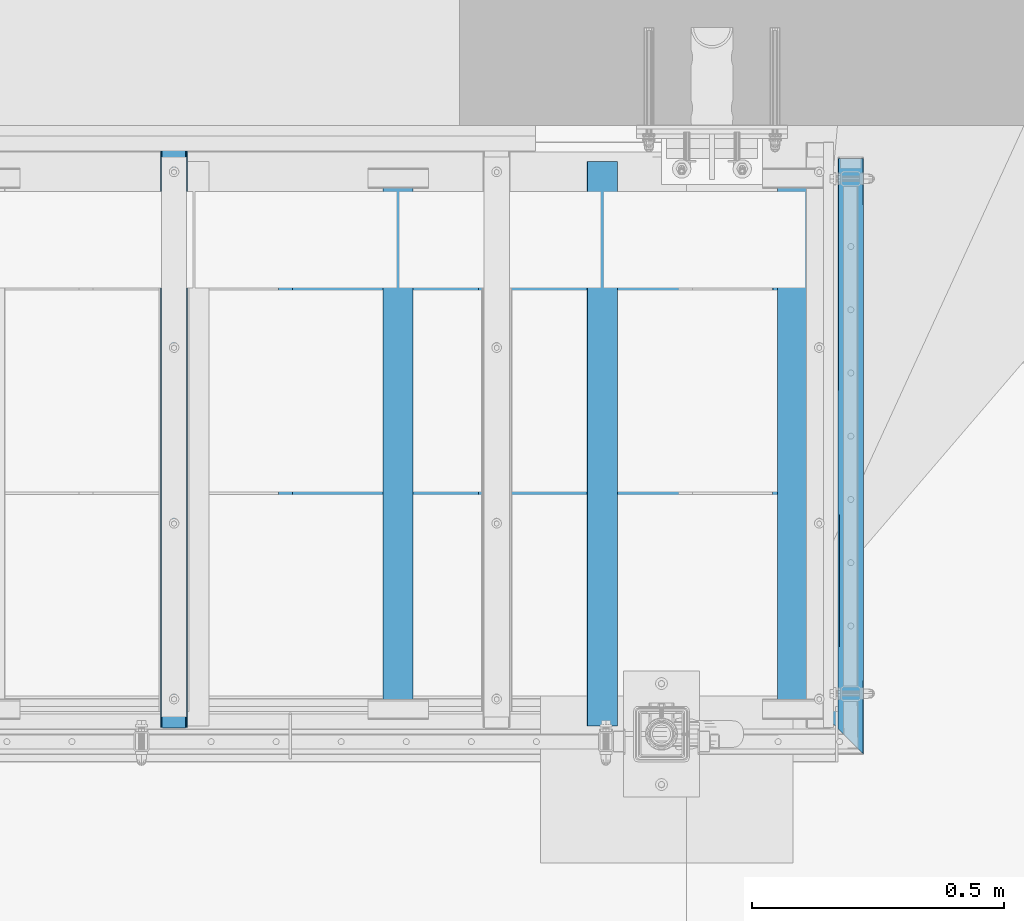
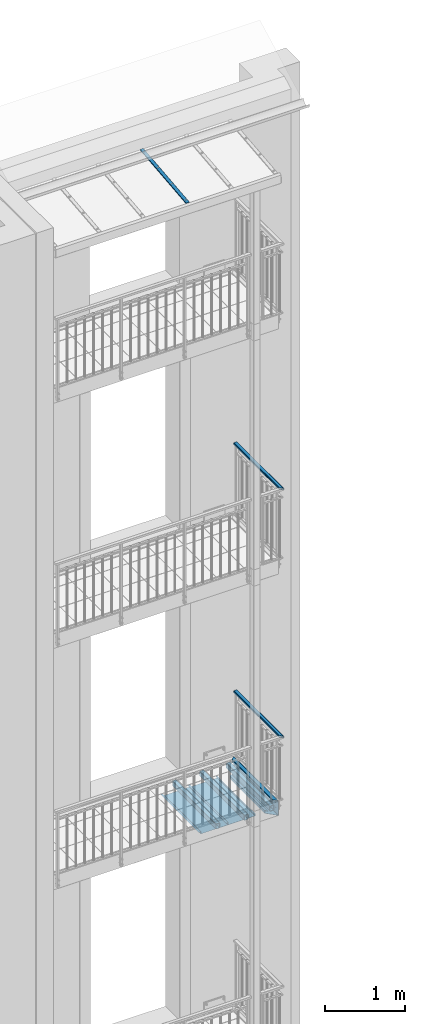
# One storey, part 43 of 162: 8 beams, 1 member, 17 openings.
"""IFC2X3 building model written with IfcOpenShell, lengths in millimetres."""

from ifc_helpers import new_model, entity, si_unit, converted_unit, point, frame, frame_2d, origin, origin_with_axes, origin_2d, origin_2d_with_axis, place, context, project, spatial, polyline, circle_curve, line_curve, trimmed, segment, composite_curve, hollow_rectangle, circle, outline, extrude, clip, halfspace, material, element, save


model = new_model("IFC2X3")

# Units and contexts
model_context = context("Model", 3, precision=1e-09, world=origin_with_axes())
ifc_project = project(units=[si_unit("LENGTHUNIT", "METRE", prefix="MILLI"), si_unit("AREAUNIT", "SQUARE_METRE"), si_unit("VOLUMEUNIT", "CUBIC_METRE"), converted_unit("PLANEANGLEUNIT", "DEGREE", entity("IfcPlaneAngleMeasure", 0.01745329), si_unit("PLANEANGLEUNIT", "RADIAN"), dimensions=[0, 0, 0, 0, 0, 0, 0])], contexts=[model_context])

# Site, building, storey
site_placement = place(None, origin_with_axes())
site = spatial("IfcSite", under=ifc_project, at=site_placement, Name="Hermannstra?e 1a, 60318 Frankfurt", CompositionType="ELEMENT")
building_placement = place(site_placement, origin_with_axes())
building = spatial("IfcBuilding", under=site, at=building_placement, Name="Struktur 1", CompositionType="ELEMENT")
storey_placement = place(building_placement, origin_with_axes())
storey = spatial("IfcBuildingStorey", under=building, at=storey_placement, Name="Default Storey", CompositionType="ELEMENT", Elevation=0.0)

# Beams
ifc_material_1 = material(Name="S235JR")
beam_1_placement = place(None, frame((5356.05936482, 1546.109373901, 7685.0), z_axis=(0.0, 1.0, 0.0), x_axis=(-1.0, 0.0, 0.0)))
element("IfcBeam", 1, at=beam_1_placement, inside=storey, material=ifc_material_1, Name="-", ObjectType="-", context=model_context, shape_type="SweptSolid", body=[
    extrude(hollow_rectangle(XDim=60.0, YDim=80.0, WallThickness=4.0, InnerFilletRadius=4.0, OuterFilletRadius=8.0, at=origin_2d()), origin(), (0.0, 0.0, 1.0), 1119.0),
])
for number, where, z_axis, x_axis in (
    (2, (4951.55936482, 1559.609373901, 7685.0), (0.0, 1.0, 0.0), (-1.0, 0.0, 0.0)),
    (3, (5733.30936482, 1559.609373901, 7685.0), (0.0, 1.0, 0.0), (-1.0, 0.0, 0.0)),
):
    element("IfcBeam", number, at=place(None, frame(where, z_axis=z_axis, x_axis=x_axis)), inside=storey, material=ifc_material_1, Name="-", ObjectType="-", context=model_context, shape_type="SweptSolid", body=[
        extrude(hollow_rectangle(XDim=60.0, YDim=80.0, WallThickness=4.0, InnerFilletRadius=4.0, OuterFilletRadius=8.0, at=origin_2d()), origin(), (0.0, 0.0, 1.0), 1092.0),
    ])
ifc_material_2 = material(Name="Alu")
for number, where, z_axis, x_axis in (
    (4, (5136.80936482, 1625.609373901, 7595.0), (0.0, -1.0, 0.0), (1.0, 0.0, 0.0)),
    (5, (5532.80936482, 1625.609373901, 7595.0), (0.0, -1.0, 0.0), (1.0, 0.0, 0.0)),
):
    element("IfcBeam", number, at=place(None, frame(where, z_axis=z_axis, x_axis=x_axis)), inside=storey, material=ifc_material_2, Name="-", ObjectType="-", context=model_context, shape_type="SweptSolid", body=[
        extrude(outline(polyline([(-421.449159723, 31.122617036), (-396.0, 34.699263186), (-396.0, 0.0), (0.0, 0.0), (0.0, 34.0), (-17.824825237, 31.494884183), (-17.546479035, 29.514348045), (-2.0, 31.699263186), (-2.0, 2.0), (-394.0, 2.0), (-394.0, 37.0), (-421.727505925, 33.103153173), (-421.449159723, 31.122617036)])), origin(), (0.0, 0.0, -1.0), 960.0),
    ])

# Beam, openings
ifc_material_3 = material(Name="S355JR")
beam_2_placement = place(None, frame((5758.30936482, 1163.302136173, 7665.0), z_axis=(0.0, 1.0, 0.0), x_axis=(-1.0, 0.0, 0.0)))
beam_2 = element("IfcBeam", 6, at=beam_2_placement, inside=storey, material=ifc_material_3, Name="-", ObjectType="-", context=model_context, shape_type="Clipping", body=[
    clip(clip(extrude(outline(composite_curve([segment(trimmed(circle_curve(frame_2d((57.999999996, -107.999999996), x_axis=(1.0, 0.0)), 7.000000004), [point((58.0, -115.0))], [point((65.0, -108.0))], True, "CARTESIAN"), True, "CONTINUOUS"), segment(trimmed(line_curve((65.0, -108.0), (0.0, 1.0), 31.0), [point((65.0, -108.0))], [point((65.0, -77.0))], True, "CARTESIAN"), True, "CONTINUOUS"), segment(trimmed(circle_curve(frame_2d((57.999999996, -77.000000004), x_axis=(1.0, 0.0)), 7.000000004), [point((65.0, -77.0))], [point((58.0, -70.0))], True, "CARTESIAN"), True, "CONTINUOUS"), segment(trimmed(line_curve((58.0, -70.0), (-1.0, 0.0), 23.0), [point((58.0, -70.0))], [point((35.0, -70.0))], True, "CARTESIAN"), True, "CONTINUOUS"), segment(trimmed(line_curve((35.0, -70.0), (0.0, -1.0), 4.0), [point((35.0, -70.0))], [point((35.0, -74.0))], True, "CARTESIAN"), True, "CONTINUOUS"), segment(trimmed(line_curve((35.0, -74.0), (1.0, 0.0), 23.0), [point((35.0, -74.0))], [point((58.0, -74.0))], True, "CARTESIAN"), True, "CONTINUOUS"), segment(trimmed(circle_curve(frame_2d((57.999999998, -77.000000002), x_axis=(-1.0, 0.0)), 3.000000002), [point((58.0, -74.0))], [point((61.0, -77.0))], False, "CARTESIAN"), True, "CONTINUOUS"), segment(trimmed(line_curve((61.0, -77.0), (0.0, -1.0), 31.0), [point((61.0, -77.0))], [point((61.0, -108.0))], True, "CARTESIAN"), True, "CONTINUOUS"), segment(trimmed(circle_curve(frame_2d((57.999999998, -107.999999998), x_axis=(-1.0, 0.0)), 3.000000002), [point((61.0, -108.0))], [point((58.0, -111.0))], False, "CARTESIAN"), True, "CONTINUOUS"), segment(trimmed(line_curve((58.0, -111.0), (-1.0, 0.0), 116.0), [point((58.0, -111.0))], [point((-58.0, -111.0))], True, "CARTESIAN"), True, "CONTINUOUS"), segment(trimmed(circle_curve(frame_2d((-57.999999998, -107.999999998), x_axis=(-1.0, 0.0)), 3.000000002), [point((-58.0, -111.0))], [point((-61.0, -108.0))], False, "CARTESIAN"), True, "CONTINUOUS"), segment(trimmed(line_curve((-61.0, -108.0), (0.0, 1.0), 216.0), [point((-61.0, -108.0))], [point((-61.0, 108.0))], True, "CARTESIAN"), True, "CONTINUOUS"), segment(trimmed(circle_curve(frame_2d((-57.999999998, 107.999999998), x_axis=(-1.0, 0.0)), 3.000000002), [point((-61.0, 108.0))], [point((-58.0, 111.0))], False, "CARTESIAN"), True, "CONTINUOUS"), segment(trimmed(line_curve((-58.0, 111.0), (1.0, 0.0), 46.0), [point((-58.0, 111.0))], [point((-12.0, 111.0))], True, "CARTESIAN"), True, "CONTINUOUS"), segment(trimmed(circle_curve(frame_2d((-12.000000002, 107.999999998), x_axis=(-1.0, 0.0)), 3.000000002), [point((-12.0, 111.0))], [point((-9.0, 108.0))], False, "CARTESIAN"), True, "CONTINUOUS"), segment(trimmed(line_curve((-9.0, 108.0), (0.0, -1.0), 33.0), [point((-9.0, 108.0))], [point((-9.0, 75.0))], True, "CARTESIAN"), True, "CONTINUOUS"), segment(trimmed(line_curve((-9.0, 75.0), (1.0, 0.0), 4.0), [point((-9.0, 75.0))], [point((-5.0, 75.0))], True, "CARTESIAN"), True, "CONTINUOUS"), segment(trimmed(line_curve((-5.0, 75.0), (0.0, 1.0), 33.0), [point((-5.0, 75.0))], [point((-5.0, 108.0))], True, "CARTESIAN"), True, "CONTINUOUS"), segment(trimmed(circle_curve(frame_2d((-12.000000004, 107.999999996), x_axis=(1.0, 0.0)), 7.000000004), [point((-5.0, 108.0))], [point((-12.0, 115.0))], True, "CARTESIAN"), True, "CONTINUOUS"), segment(trimmed(line_curve((-12.0, 115.0), (-1.0, 0.0), 46.0), [point((-12.0, 115.0))], [point((-58.0, 115.0))], True, "CARTESIAN"), True, "CONTINUOUS"), segment(trimmed(circle_curve(frame_2d((-57.999999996, 107.999999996), x_axis=(1.0, 0.0)), 7.000000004), [point((-58.0, 115.0))], [point((-65.0, 108.0))], True, "CARTESIAN"), True, "CONTINUOUS"), segment(trimmed(line_curve((-65.0, 108.0), (0.0, -1.0), 216.0), [point((-65.0, 108.0))], [point((-65.0, -108.0))], True, "CARTESIAN"), True, "CONTINUOUS"), segment(trimmed(circle_curve(frame_2d((-57.999999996, -107.999999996), x_axis=(1.0, 0.0)), 7.000000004), [point((-65.0, -108.0))], [point((-58.0, -115.0))], True, "CARTESIAN"), True, "CONTINUOUS"), segment(trimmed(line_curve((-58.0, -115.0), (1.0, 0.0), 116.0), [point((-58.0, -115.0))], [point((58.0, -115.0))], True, "CARTESIAN"), True, "CONTINUOUS")], self_intersect=False)), origin(), (0.0, 0.0, 1.0), 1884.614475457), halfspace(frame((4181.958662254, -7665.0, -2739.652838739), z_axis=(-0.707106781, 0.0, -0.707106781), x_axis=(-0.707106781, 0.0, 0.707106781)), True)), halfspace(frame((2076.349288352, -7665.0, 2518.657940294), z_axis=(-0.707106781, 0.0, 0.707106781), x_axis=(0.707106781, 0.0, 0.707106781)), True)),
])
opening_1_placement = place(beam_2_placement, frame((-56.065030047, 215.1, 367.985828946), z_axis=(0.0, 1.0, 0.0), x_axis=(-1.0, 0.0, 0.0)))
element("IfcOpeningElement", 7, at=opening_1_placement, cuts=beam_2, ObjectType="Opening", context=model_context, shape_type="SweptSolid", body=[
    extrude(outline(polyline([(0.0, 0.0), (32.796627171, 0.0), (32.796627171, 13.322408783), (0.0, 13.322408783), (0.0, 0.0)])), origin(), (0.0, 0.0, -1.0), 430.2),
])
opening_2_placement = place(beam_2_placement, frame((-72.463343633, 215.1, 1509.96744212), z_axis=(0.0, -1.0, 0.0), x_axis=(-1.0, 0.0, 0.0)))
element("IfcOpeningElement", 8, at=opening_2_placement, cuts=beam_2, ObjectType="Opening", context=model_context, shape_type="SweptSolid", body=[
    extrude(outline(polyline([(-16.398313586, -6.661204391), (16.398313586, -6.661204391), (16.398313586, 6.661204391), (-16.398313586, 6.661204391), (-16.398313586, -6.661204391)])), origin(), (0.0, 0.0, 1.0), 430.2),
])
opening_3_placement = place(beam_2_placement, frame((-60.5, 95.0, 407.307823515), z_axis=(1.0, 0.0, 0.0), x_axis=(0.0, 1.0, 0.0)))
element("IfcOpeningElement", 9, at=opening_3_placement, cuts=beam_2, ObjectType="Opening", context=model_context, shape_type="SweptSolid", body=[
    extrude(circle(Radius=10.001, at=frame_2d((0.0, -10.001), x_axis=(1.0, 0.0))), origin(), (0.0, 0.0, -1.0), 5.0),
])
opening_4_placement = place(beam_2_placement, frame((-65.5, 55.0, 440.306237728), z_axis=(-1.0, 0.0, 0.0), x_axis=(0.0, -1.0, 0.0)))
element("IfcOpeningElement", 10, at=opening_4_placement, cuts=beam_2, ObjectType="Opening", context=model_context, shape_type="SweptSolid", body=[
    extrude(circle(Radius=7.001, at=frame_2d((0.0, 7.001), x_axis=(1.0, 0.0))), origin(), (0.0, 0.0, -1.0), 5.0),
])
opening_5_placement = place(beam_2_placement, frame((-65.5, -25.0, 440.306237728), z_axis=(-1.0, 0.0, 0.0), x_axis=(0.0, -1.0, 0.0)))
element("IfcOpeningElement", 11, at=opening_5_placement, cuts=beam_2, ObjectType="Opening", context=model_context, shape_type="SweptSolid", body=[
    extrude(circle(Radius=7.001, at=frame_2d((0.0, 7.001), x_axis=(1.0, 0.0))), origin(), (0.0, 0.0, -1.0), 5.0),
])
opening_6_placement = place(beam_2_placement, frame((-65.5, 55.0, 1460.306237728), z_axis=(-1.0, 0.0, 0.0), x_axis=(0.0, -1.0, 0.0)))
element("IfcOpeningElement", 12, at=opening_6_placement, cuts=beam_2, ObjectType="Opening", context=model_context, shape_type="SweptSolid", body=[
    extrude(circle(Radius=7.001, at=frame_2d((0.0, 7.001), x_axis=(1.0, 0.0))), origin(), (0.0, 0.0, -1.0), 5.0),
])
opening_7_placement = place(beam_2_placement, frame((-65.5, -25.0, 1460.306237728), z_axis=(-1.0, 0.0, 0.0), x_axis=(0.0, -1.0, 0.0)))
element("IfcOpeningElement", 13, at=opening_7_placement, cuts=beam_2, ObjectType="Opening", context=model_context, shape_type="SweptSolid", body=[
    extrude(circle(Radius=7.001, at=frame_2d((0.0, 7.001), x_axis=(1.0, 0.0))), origin(), (0.0, 0.0, -1.0), 5.0),
])

beam_3_placement = place(None, frame((5848.30936482, 2670.609373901, 8765.0), z_axis=(0.0, 1.0, 0.0), x_axis=(0.0, 0.0, -1.0)))
beam_3 = element("IfcBeam", 14, at=beam_3_placement, inside=storey, material=ifc_material_1, Name="-", ObjectType="-", context=model_context, shape_type="Clipping", body=[
    clip(extrude(hollow_rectangle(XDim=30.0, YDim=50.0, WallThickness=3.0, InnerFilletRadius=3.0, OuterFilletRadius=6.0, at=origin_2d()), origin(), (0.0, 0.0, -1.0), 1196.231056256), halfspace(frame((8765.0, 2166.349288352, 1011.350702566), z_axis=(0.0, -0.707106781, 0.707106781), x_axis=(0.0, 0.707106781, 0.707106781)), True)),
])
opening_8_placement = place(beam_3_placement, frame((11.5, 0.0, -1065.001), z_axis=(-1.0, 0.0, 0.0), x_axis=(0.0, -1.0, 0.0)))
element("IfcOpeningElement", 15, at=opening_8_placement, cuts=beam_3, ObjectType="Opening", context=model_context, shape_type="SweptSolid", body=[
    extrude(circle(Radius=5.001, at=frame_2d((0.0, 5.001), x_axis=(1.0, 0.0))), origin(), (0.0, 0.0, -1.0), 4.0),
])
opening_9_placement = place(beam_3_placement, frame((11.5, 0.0, -40.0), z_axis=(1.0, 0.0, 0.0), x_axis=(0.0, 0.0, -1.0)))
element("IfcOpeningElement", 16, at=opening_9_placement, cuts=beam_3, ObjectType="Opening", context=model_context, shape_type="SweptSolid", body=[
    extrude(circle(Radius=5.001, at=origin_2d_with_axis()), origin(), (0.0, 0.0, 1.0), 4.0),
])
opening_10_placement = place(beam_3_placement, frame((0.0, -21.5, -1180.0), z_axis=(0.0, -1.0, 0.0), x_axis=(0.0, 0.0, 1.0)))
element("IfcOpeningElement", 17, at=opening_10_placement, cuts=beam_3, ObjectType="Opening", context=model_context, shape_type="SweptSolid", body=[
    extrude(circle(Radius=4.001, at=frame_2d((10.0, 0.0), x_axis=(1.0, 0.0))), origin(), (0.0, 0.0, 1.0), 4.0),
])

beam_4_placement = place(None, frame((5848.30936482, 2670.609373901, 12564.999), z_axis=(0.0, 1.0, 0.0), x_axis=(0.0, 0.0, -1.0)))
beam_4 = element("IfcBeam", 18, at=beam_4_placement, inside=storey, material=ifc_material_1, Name="-", ObjectType="-", context=model_context, shape_type="Clipping", body=[
    clip(extrude(hollow_rectangle(XDim=30.0, YDim=50.0, WallThickness=3.0, InnerFilletRadius=3.0, OuterFilletRadius=6.0, at=origin_2d()), origin(), (0.0, 0.0, -1.0), 1196.231056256), halfspace(frame((12564.999, 2166.349288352, 1011.350702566), z_axis=(0.0, -0.707106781, 0.707106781), x_axis=(0.0, 0.707106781, 0.707106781)), True)),
])
opening_11_placement = place(beam_4_placement, frame((11.5, 0.0, -1065.001), z_axis=(-1.0, 0.0, 0.0), x_axis=(0.0, -1.0, 0.0)))
element("IfcOpeningElement", 19, at=opening_11_placement, cuts=beam_4, ObjectType="Opening", context=model_context, shape_type="SweptSolid", body=[
    extrude(circle(Radius=5.001, at=frame_2d((0.0, 5.001), x_axis=(1.0, 0.0))), origin(), (0.0, 0.0, -1.0), 4.0),
])
opening_12_placement = place(beam_4_placement, frame((11.5, 0.0, -40.0), z_axis=(1.0, 0.0, 0.0), x_axis=(0.0, 0.0, -1.0)))
element("IfcOpeningElement", 20, at=opening_12_placement, cuts=beam_4, ObjectType="Opening", context=model_context, shape_type="SweptSolid", body=[
    extrude(circle(Radius=5.001, at=origin_2d_with_axis()), origin(), (0.0, 0.0, 1.0), 4.0),
])
opening_13_placement = place(beam_4_placement, frame((0.0, -21.5, -1180.0), z_axis=(0.0, -1.0, 0.0), x_axis=(0.0, 0.0, 1.0)))
element("IfcOpeningElement", 21, at=opening_13_placement, cuts=beam_4, ObjectType="Opening", context=model_context, shape_type="SweptSolid", body=[
    extrude(circle(Radius=4.001, at=frame_2d((10.0, 0.0), x_axis=(1.0, 0.0))), origin(), (0.0, 0.0, 1.0), 4.0),
])

# Member, openings
member_placement = place(None, frame((4507.80936482, 1543.575957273, 17399.432480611), z_axis=(0.0, -0.994521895, -0.104528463), x_axis=(1.0, 0.0, 0.0)))
member = element("IfcMember", 22, at=member_placement, inside=storey, material=ifc_material_2, Name="Girder", ObjectType="Girder", context=model_context, shape_type="SweptSolid", body=[
    extrude(outline(composite_curve([segment(trimmed(line_curve((10.75, -4.5), (1.0, 0.0), 0.5), [point((10.75, -4.5))], [point((11.25, -4.5))], True, "CARTESIAN"), True, "CONTINUOUS"), segment(trimmed(line_curve((11.25, -4.5), (0.0, 1.0), 1.0), [point((11.25, -4.5))], [point((11.25, -3.5))], True, "CARTESIAN"), True, "CONTINUOUS"), segment(trimmed(line_curve((11.25, -3.5), (1.0, 0.0), 1.0), [point((11.25, -3.5))], [point((12.25, -3.5))], True, "CARTESIAN"), True, "CONTINUOUS"), segment(trimmed(line_curve((12.25, -3.5), (0.0, -1.0), 1.0), [point((12.25, -3.5))], [point((12.25, -4.5))], True, "CARTESIAN"), True, "CONTINUOUS"), segment(trimmed(line_curve((12.25, -4.5), (1.0, 0.0), 1.0), [point((12.25, -4.5))], [point((13.25, -4.5))], True, "CARTESIAN"), True, "CONTINUOUS"), segment(trimmed(line_curve((13.25, -4.5), (0.0, 1.0), 1.0), [point((13.25, -4.5))], [point((13.25, -3.5))], True, "CARTESIAN"), True, "CONTINUOUS"), segment(trimmed(line_curve((13.25, -3.5), (1.0, 0.0), 1.0), [point((13.25, -3.5))], [point((14.25, -3.5))], True, "CARTESIAN"), True, "CONTINUOUS"), segment(trimmed(line_curve((14.25, -3.5), (0.0, -1.0), 1.0), [point((14.25, -3.5))], [point((14.25, -4.5))], True, "CARTESIAN"), True, "CONTINUOUS"), segment(trimmed(line_curve((14.25, -4.5), (1.0, 0.0), 1.0), [point((14.25, -4.5))], [point((15.25, -4.5))], True, "CARTESIAN"), True, "CONTINUOUS"), segment(trimmed(line_curve((15.25, -4.5), (0.0, 1.0), 1.0), [point((15.25, -4.5))], [point((15.25, -3.5))], True, "CARTESIAN"), True, "CONTINUOUS"), segment(trimmed(line_curve((15.25, -3.5), (1.0, 0.0), 1.0), [point((15.25, -3.5))], [point((16.25, -3.5))], True, "CARTESIAN"), True, "CONTINUOUS"), segment(trimmed(line_curve((16.25, -3.5), (0.0, -1.0), 1.0), [point((16.25, -3.5))], [point((16.25, -4.5))], True, "CARTESIAN"), True, "CONTINUOUS"), segment(trimmed(line_curve((16.25, -4.5), (1.0, 0.0), 1.0), [point((16.25, -4.5))], [point((17.25, -4.5))], True, "CARTESIAN"), True, "CONTINUOUS"), segment(trimmed(line_curve((17.25, -4.5), (0.0, 1.0), 1.0), [point((17.25, -4.5))], [point((17.25, -3.5))], True, "CARTESIAN"), True, "CONTINUOUS"), segment(trimmed(line_curve((17.25, -3.5), (1.0, 0.0), 1.0), [point((17.25, -3.5))], [point((18.25, -3.5))], True, "CARTESIAN"), True, "CONTINUOUS"), segment(trimmed(line_curve((18.25, -3.5), (0.0, -1.0), 1.0), [point((18.25, -3.5))], [point((18.25, -4.5))], True, "CARTESIAN"), True, "CONTINUOUS"), segment(trimmed(line_curve((18.25, -4.5), (1.0, 0.0), 1.0), [point((18.25, -4.5))], [point((19.25, -4.5))], True, "CARTESIAN"), True, "CONTINUOUS"), segment(trimmed(line_curve((19.25, -4.5), (0.0, 1.0), 1.0), [point((19.25, -4.5))], [point((19.25, -3.5))], True, "CARTESIAN"), True, "CONTINUOUS"), segment(trimmed(line_curve((19.25, -3.5), (1.0, 0.0), 1.0), [point((19.25, -3.5))], [point((20.25, -3.5))], True, "CARTESIAN"), True, "CONTINUOUS"), segment(trimmed(line_curve((20.25, -3.5), (0.0, -1.0), 1.0), [point((20.25, -3.5))], [point((20.25, -4.5))], True, "CARTESIAN"), True, "CONTINUOUS"), segment(trimmed(line_curve((20.25, -4.5), (1.0, 0.0), 1.0), [point((20.25, -4.5))], [point((21.25, -4.5))], True, "CARTESIAN"), True, "CONTINUOUS"), segment(trimmed(line_curve((21.25, -4.5), (0.0, 1.0), 1.0), [point((21.25, -4.5))], [point((21.25, -3.5))], True, "CARTESIAN"), True, "CONTINUOUS"), segment(trimmed(line_curve((21.25, -3.5), (1.0, 0.0), 1.0), [point((21.25, -3.5))], [point((22.25, -3.5))], True, "CARTESIAN"), True, "CONTINUOUS"), segment(trimmed(line_curve((22.25, -3.5), (0.0, -1.0), 1.0), [point((22.25, -3.5))], [point((22.25, -4.5))], True, "CARTESIAN"), True, "CONTINUOUS"), segment(trimmed(line_curve((22.25, -4.5), (1.0, 0.0), 1.0), [point((22.25, -4.5))], [point((23.25, -4.5))], True, "CARTESIAN"), True, "CONTINUOUS"), segment(trimmed(line_curve((23.25, -4.5), (0.0, 1.0), 1.0), [point((23.25, -4.5))], [point((23.25, -3.5))], True, "CARTESIAN"), True, "CONTINUOUS"), segment(trimmed(line_curve((23.25, -3.5), (1.0, 0.0), 1.0), [point((23.25, -3.5))], [point((24.25, -3.5))], True, "CARTESIAN"), True, "CONTINUOUS"), segment(trimmed(line_curve((24.25, -3.5), (0.0, -1.0), 1.0), [point((24.25, -3.5))], [point((24.25, -4.5))], True, "CARTESIAN"), True, "CONTINUOUS"), segment(trimmed(line_curve((24.25, -4.5), (1.0, 0.0), 1.0), [point((24.25, -4.5))], [point((25.25, -4.5))], True, "CARTESIAN"), True, "CONTINUOUS"), segment(trimmed(line_curve((25.25, -4.5), (0.0, 1.0), 1.0), [point((25.25, -4.5))], [point((25.25, -3.5))], True, "CARTESIAN"), True, "CONTINUOUS"), segment(trimmed(line_curve((25.25, -3.5), (1.0, 0.0), 1.0), [point((25.25, -3.5))], [point((26.25, -3.5))], True, "CARTESIAN"), True, "CONTINUOUS"), segment(trimmed(line_curve((26.25, -3.5), (0.0, -1.0), 1.0), [point((26.25, -3.5))], [point((26.25, -4.5))], True, "CARTESIAN"), True, "CONTINUOUS"), segment(trimmed(line_curve((26.25, -4.5), (1.0, 0.0), 0.5), [point((26.25, -4.5))], [point((26.75, -4.5))], True, "CARTESIAN"), True, "CONTINUOUS"), segment(trimmed(line_curve((26.75, -4.5), (0.0, 1.0), 4.0), [point((26.75, -4.5))], [point((26.75, -0.5))], True, "CARTESIAN"), True, "CONTINUOUS"), segment(trimmed(line_curve((26.75, -0.5), (-1.0, 0.0), 1.75), [point((26.75, -0.5))], [point((25.0, -0.5))], True, "CARTESIAN"), True, "CONTINUOUS"), segment(trimmed(line_curve((25.0, -0.5), (0.0, 1.0), 1.5), [point((25.0, -0.5))], [point((25.0, 1.0))], True, "CARTESIAN"), True, "CONTINUOUS"), segment(trimmed(circle_curve(frame_2d((21.499999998, 0.999999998), x_axis=(1.0, 0.0)), 3.500000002), [point((25.0, 1.0))], [point((21.5, 4.5))], True, "CARTESIAN"), True, "CONTINUOUS"), segment(trimmed(line_curve((21.5, 4.5), (-1.0, 0.0), 43.0), [point((21.5, 4.5))], [point((-21.5, 4.5))], True, "CARTESIAN"), True, "CONTINUOUS"), segment(trimmed(circle_curve(frame_2d((-21.499999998, 0.999999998), x_axis=(1.0, 0.0)), 3.500000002), [point((-21.5, 4.5))], [point((-25.0, 1.0))], True, "CARTESIAN"), True, "CONTINUOUS"), segment(trimmed(line_curve((-25.0, 1.0), (0.0, -1.0), 1.5), [point((-25.0, 1.0))], [point((-25.0, -0.5))], True, "CARTESIAN"), True, "CONTINUOUS"), segment(trimmed(line_curve((-25.0, -0.5), (-1.0, 0.0), 1.75), [point((-25.0, -0.5))], [point((-26.75, -0.5))], True, "CARTESIAN"), True, "CONTINUOUS"), segment(trimmed(line_curve((-26.75, -0.5), (0.0, -1.0), 4.0), [point((-26.75, -0.5))], [point((-26.75, -4.5))], True, "CARTESIAN"), True, "CONTINUOUS"), segment(trimmed(line_curve((-26.75, -4.5), (1.0, 0.0), 0.5), [point((-26.75, -4.5))], [point((-26.25, -4.5))], True, "CARTESIAN"), True, "CONTINUOUS"), segment(trimmed(line_curve((-26.25, -4.5), (0.0, 1.0), 1.0), [point((-26.25, -4.5))], [point((-26.25, -3.5))], True, "CARTESIAN"), True, "CONTINUOUS"), segment(trimmed(line_curve((-26.25, -3.5), (1.0, 0.0), 1.0), [point((-26.25, -3.5))], [point((-25.25, -3.5))], True, "CARTESIAN"), True, "CONTINUOUS"), segment(trimmed(line_curve((-25.25, -3.5), (0.0, -1.0), 1.0), [point((-25.25, -3.5))], [point((-25.25, -4.5))], True, "CARTESIAN"), True, "CONTINUOUS"), segment(trimmed(line_curve((-25.25, -4.5), (1.0, 0.0), 1.0), [point((-25.25, -4.5))], [point((-24.25, -4.5))], True, "CARTESIAN"), True, "CONTINUOUS"), segment(trimmed(line_curve((-24.25, -4.5), (0.0, 1.0), 1.0), [point((-24.25, -4.5))], [point((-24.25, -3.5))], True, "CARTESIAN"), True, "CONTINUOUS"), segment(trimmed(line_curve((-24.25, -3.5), (1.0, 0.0), 1.0), [point((-24.25, -3.5))], [point((-23.25, -3.5))], True, "CARTESIAN"), True, "CONTINUOUS"), segment(trimmed(line_curve((-23.25, -3.5), (0.0, -1.0), 1.0), [point((-23.25, -3.5))], [point((-23.25, -4.5))], True, "CARTESIAN"), True, "CONTINUOUS"), segment(trimmed(line_curve((-23.25, -4.5), (1.0, 0.0), 1.0), [point((-23.25, -4.5))], [point((-22.25, -4.5))], True, "CARTESIAN"), True, "CONTINUOUS"), segment(trimmed(line_curve((-22.25, -4.5), (0.0, 1.0), 1.0), [point((-22.25, -4.5))], [point((-22.25, -3.5))], True, "CARTESIAN"), True, "CONTINUOUS"), segment(trimmed(line_curve((-22.25, -3.5), (1.0, 0.0), 1.0), [point((-22.25, -3.5))], [point((-21.25, -3.5))], True, "CARTESIAN"), True, "CONTINUOUS"), segment(trimmed(line_curve((-21.25, -3.5), (0.0, -1.0), 1.0), [point((-21.25, -3.5))], [point((-21.25, -4.5))], True, "CARTESIAN"), True, "CONTINUOUS"), segment(trimmed(line_curve((-21.25, -4.5), (1.0, 0.0), 1.0), [point((-21.25, -4.5))], [point((-20.25, -4.5))], True, "CARTESIAN"), True, "CONTINUOUS"), segment(trimmed(line_curve((-20.25, -4.5), (0.0, 1.0), 1.0), [point((-20.25, -4.5))], [point((-20.25, -3.5))], True, "CARTESIAN"), True, "CONTINUOUS"), segment(trimmed(line_curve((-20.25, -3.5), (1.0, 0.0), 1.0), [point((-20.25, -3.5))], [point((-19.25, -3.5))], True, "CARTESIAN"), True, "CONTINUOUS"), segment(trimmed(line_curve((-19.25, -3.5), (0.0, -1.0), 1.0), [point((-19.25, -3.5))], [point((-19.25, -4.5))], True, "CARTESIAN"), True, "CONTINUOUS"), segment(trimmed(line_curve((-19.25, -4.5), (1.0, 0.0), 1.0), [point((-19.25, -4.5))], [point((-18.25, -4.5))], True, "CARTESIAN"), True, "CONTINUOUS"), segment(trimmed(line_curve((-18.25, -4.5), (0.0, 1.0), 1.0), [point((-18.25, -4.5))], [point((-18.25, -3.5))], True, "CARTESIAN"), True, "CONTINUOUS"), segment(trimmed(line_curve((-18.25, -3.5), (1.0, 0.0), 1.0), [point((-18.25, -3.5))], [point((-17.25, -3.5))], True, "CARTESIAN"), True, "CONTINUOUS"), segment(trimmed(line_curve((-17.25, -3.5), (0.0, -1.0), 1.0), [point((-17.25, -3.5))], [point((-17.25, -4.5))], True, "CARTESIAN"), True, "CONTINUOUS"), segment(trimmed(line_curve((-17.25, -4.5), (1.0, 0.0), 1.0), [point((-17.25, -4.5))], [point((-16.25, -4.5))], True, "CARTESIAN"), True, "CONTINUOUS"), segment(trimmed(line_curve((-16.25, -4.5), (0.0, 1.0), 1.0), [point((-16.25, -4.5))], [point((-16.25, -3.5))], True, "CARTESIAN"), True, "CONTINUOUS"), segment(trimmed(line_curve((-16.25, -3.5), (1.0, 0.0), 1.0), [point((-16.25, -3.5))], [point((-15.25, -3.5))], True, "CARTESIAN"), True, "CONTINUOUS"), segment(trimmed(line_curve((-15.25, -3.5), (0.0, -1.0), 1.0), [point((-15.25, -3.5))], [point((-15.25, -4.5))], True, "CARTESIAN"), True, "CONTINUOUS"), segment(trimmed(line_curve((-15.25, -4.5), (1.0, 0.0), 1.0), [point((-15.25, -4.5))], [point((-14.25, -4.5))], True, "CARTESIAN"), True, "CONTINUOUS"), segment(trimmed(line_curve((-14.25, -4.5), (0.0, 1.0), 1.0), [point((-14.25, -4.5))], [point((-14.25, -3.5))], True, "CARTESIAN"), True, "CONTINUOUS"), segment(trimmed(line_curve((-14.25, -3.5), (1.0, 0.0), 1.0), [point((-14.25, -3.5))], [point((-13.25, -3.5))], True, "CARTESIAN"), True, "CONTINUOUS"), segment(trimmed(line_curve((-13.25, -3.5), (0.0, -1.0), 1.0), [point((-13.25, -3.5))], [point((-13.25, -4.5))], True, "CARTESIAN"), True, "CONTINUOUS"), segment(trimmed(line_curve((-13.25, -4.5), (1.0, 0.0), 1.0), [point((-13.25, -4.5))], [point((-12.25, -4.5))], True, "CARTESIAN"), True, "CONTINUOUS"), segment(trimmed(line_curve((-12.25, -4.5), (0.0, 1.0), 1.0), [point((-12.25, -4.5))], [point((-12.25, -3.5))], True, "CARTESIAN"), True, "CONTINUOUS"), segment(trimmed(line_curve((-12.25, -3.5), (1.0, 0.0), 1.0), [point((-12.25, -3.5))], [point((-11.25, -3.5))], True, "CARTESIAN"), True, "CONTINUOUS"), segment(trimmed(line_curve((-11.25, -3.5), (0.0, -1.0), 1.0), [point((-11.25, -3.5))], [point((-11.25, -4.5))], True, "CARTESIAN"), True, "CONTINUOUS"), segment(trimmed(line_curve((-11.25, -4.5), (1.0, 0.0), 0.5), [point((-11.25, -4.5))], [point((-10.75, -4.5))], True, "CARTESIAN"), True, "CONTINUOUS"), segment(trimmed(line_curve((-10.75, -4.5), (0.0, 1.0), 4.0), [point((-10.75, -4.5))], [point((-10.75, -0.5))], True, "CARTESIAN"), True, "CONTINUOUS"), segment(trimmed(line_curve((-10.75, -0.5), (-1.0, 0.0), 1.75), [point((-10.75, -0.5))], [point((-12.5, -0.5))], True, "CARTESIAN"), True, "CONTINUOUS"), segment(trimmed(line_curve((-12.5, -0.5), (0.0, 1.0), 3.0), [point((-12.5, -0.5))], [point((-12.5, 2.5))], True, "CARTESIAN"), True, "CONTINUOUS"), segment(trimmed(line_curve((-12.5, 2.5), (1.0, 0.0), 25.0), [point((-12.5, 2.5))], [point((12.5, 2.5))], True, "CARTESIAN"), True, "CONTINUOUS"), segment(trimmed(line_curve((12.5, 2.5), (0.0, -1.0), 3.0), [point((12.5, 2.5))], [point((12.5, -0.5))], True, "CARTESIAN"), True, "CONTINUOUS"), segment(trimmed(line_curve((12.5, -0.5), (-1.0, 0.0), 1.75), [point((12.5, -0.5))], [point((10.75, -0.5))], True, "CARTESIAN"), True, "CONTINUOUS"), segment(trimmed(line_curve((10.75, -0.5), (0.0, -1.0), 4.0), [point((10.75, -0.5))], [point((10.75, -4.5))], True, "CARTESIAN"), True, "CONTINUOUS")], self_intersect=False), holes=[composite_curve([segment(trimmed(line_curve((16.25, -0.5), (1.0, 0.0), 5.0), [point((16.25, -0.5))], [point((21.25, -0.5))], True, "CARTESIAN"), True, "CONTINUOUS"), segment(trimmed(line_curve((21.25, -0.5), (0.0, 1.0), 1.5), [point((21.25, -0.5))], [point((21.25, 1.0))], True, "CARTESIAN"), True, "CONTINUOUS"), segment(trimmed(line_curve((21.25, 1.0), (1.0, 0.0), 2.25), [point((21.25, 1.0))], [point((23.5, 1.0))], True, "CARTESIAN"), True, "CONTINUOUS"), segment(trimmed(circle_curve(frame_2d((21.499999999, 0.999999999), x_axis=(1.0, 0.0)), 2.000000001), [point((23.5, 1.0))], [point((21.5, 3.0))], True, "CARTESIAN"), True, "CONTINUOUS"), segment(trimmed(line_curve((21.5, 3.0), (-1.0, 0.0), 7.5), [point((21.5, 3.0))], [point((14.0, 3.0))], True, "CARTESIAN"), True, "CONTINUOUS"), segment(trimmed(line_curve((14.0, 3.0), (0.0, -1.0), 2.0), [point((14.0, 3.0))], [point((14.0, 1.0))], True, "CARTESIAN"), True, "CONTINUOUS"), segment(trimmed(line_curve((14.0, 1.0), (1.0, 0.0), 2.25), [point((14.0, 1.0))], [point((16.25, 1.0))], True, "CARTESIAN"), True, "CONTINUOUS"), segment(trimmed(line_curve((16.25, 1.0), (0.0, -1.0), 1.5), [point((16.25, 1.0))], [point((16.25, -0.5))], True, "CARTESIAN"), True, "CONTINUOUS")], self_intersect=False), composite_curve([segment(trimmed(line_curve((-16.25, -0.5), (0.0, 1.0), 1.5), [point((-16.25, -0.5))], [point((-16.25, 1.0))], True, "CARTESIAN"), True, "CONTINUOUS"), segment(trimmed(line_curve((-16.25, 1.0), (1.0, 0.0), 2.25), [point((-16.25, 1.0))], [point((-14.0, 1.0))], True, "CARTESIAN"), True, "CONTINUOUS"), segment(trimmed(line_curve((-14.0, 1.0), (0.0, 1.0), 2.0), [point((-14.0, 1.0))], [point((-14.0, 3.0))], True, "CARTESIAN"), True, "CONTINUOUS"), segment(trimmed(line_curve((-14.0, 3.0), (-1.0, 0.0), 7.5), [point((-14.0, 3.0))], [point((-21.5, 3.0))], True, "CARTESIAN"), True, "CONTINUOUS"), segment(trimmed(circle_curve(frame_2d((-21.499999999, 0.999999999), x_axis=(1.0, 0.0)), 2.000000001), [point((-21.5, 3.0))], [point((-23.5, 1.0))], True, "CARTESIAN"), True, "CONTINUOUS"), segment(trimmed(line_curve((-23.5, 1.0), (1.0, 0.0), 2.25), [point((-23.5, 1.0))], [point((-21.25, 1.0))], True, "CARTESIAN"), True, "CONTINUOUS"), segment(trimmed(line_curve((-21.25, 1.0), (0.0, -1.0), 1.5), [point((-21.25, 1.0))], [point((-21.25, -0.5))], True, "CARTESIAN"), True, "CONTINUOUS"), segment(trimmed(line_curve((-21.25, -0.5), (1.0, 0.0), 5.0), [point((-21.25, -0.5))], [point((-16.25, -0.5))], True, "CARTESIAN"), True, "CONTINUOUS")], self_intersect=False)]), origin(), (0.0, 0.0, -1.0), 1164.995580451),
])
opening_14_placement = place(member_placement, frame((2e-09, 2.0, -57.497790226), z_axis=(0.0, 1.0, 0.0), x_axis=(1.0, 0.0, 0.0)))
element("IfcOpeningElement", 23, at=opening_14_placement, cuts=member, ObjectType="Opening", context=model_context, shape_type="SweptSolid", body=[
    extrude(circle(Radius=6.001, at=origin_2d_with_axis()), origin(), (0.0, 0.0, 1.0), 3.0),
])
opening_15_placement = place(member_placement, frame((2e-09, 2.0, -407.497790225), z_axis=(0.0, 1.0, 0.0), x_axis=(1.0, 0.0, 0.0)))
element("IfcOpeningElement", 24, at=opening_15_placement, cuts=member, ObjectType="Opening", context=model_context, shape_type="SweptSolid", body=[
    extrude(circle(Radius=6.001, at=origin_2d_with_axis()), origin(), (0.0, 0.0, 1.0), 3.0),
])
opening_16_placement = place(member_placement, frame((2e-09, 2.0, -757.497790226), z_axis=(0.0, 1.0, 0.0), x_axis=(1.0, 0.0, 0.0)))
element("IfcOpeningElement", 25, at=opening_16_placement, cuts=member, ObjectType="Opening", context=model_context, shape_type="SweptSolid", body=[
    extrude(circle(Radius=6.001, at=origin_2d_with_axis()), origin(), (0.0, 0.0, 1.0), 3.0),
])
opening_17_placement = place(member_placement, frame((2e-09, 2.0, -1107.497790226), z_axis=(0.0, 1.0, 0.0), x_axis=(1.0, 0.0, 0.0)))
element("IfcOpeningElement", 26, at=opening_17_placement, cuts=member, ObjectType="Opening", context=model_context, shape_type="SweptSolid", body=[
    extrude(circle(Radius=6.001, at=origin_2d_with_axis()), origin(), (0.0, 0.0, 1.0), 3.0),
])

save(model, "model.ifc")
